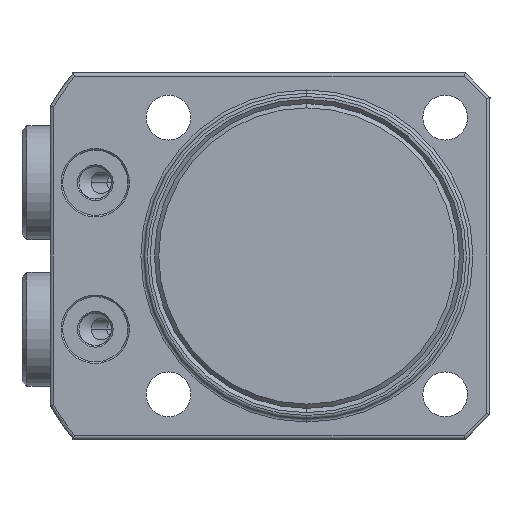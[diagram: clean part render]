
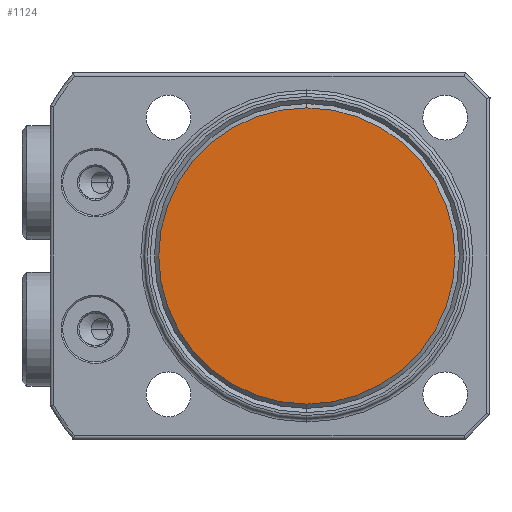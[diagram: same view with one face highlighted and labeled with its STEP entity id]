
A CAD part, front view. The second image highlights one B-rep face of the part: STEP entity #1124.
In plain terms, the highlighted planar face has unit normal (0, -1, 0) as drawn and (1, 0, 0) by its records, which use the part's own axes.
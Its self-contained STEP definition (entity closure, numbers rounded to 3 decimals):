
#866=PLANE('',#4428);
#1124=ADVANCED_FACE('',(#1379),#866,.T.);
#1379=FACE_OUTER_BOUND('',#1583,.T.);
#1583=EDGE_LOOP('',(#2599,#2600));
#2599=ORIENTED_EDGE('',*,*,#3652,.F.);
#2600=ORIENTED_EDGE('',*,*,#3771,.F.);
#3265=VERTEX_POINT('',#6252);
#3266=VERTEX_POINT('',#6253);
#3652=EDGE_CURVE('',#3265,#3266,#4057,.T.);
#3771=EDGE_CURVE('',#3266,#3265,#4103,.T.);
#4057=CIRCLE('',#4353,18.2);
#4103=CIRCLE('',#4427,18.2);
#4353=AXIS2_PLACEMENT_3D('',#6251,#5040,#5041);
#4427=AXIS2_PLACEMENT_3D('',#6697,#5240,#5241);
#4428=AXIS2_PLACEMENT_3D('',#6698,#5242,#5243);
#5040=DIRECTION('',(-1.,0.,0.));
#5041=DIRECTION('',(0.,0.,1.));
#5240=DIRECTION('',(-1.,0.,0.));
#5241=DIRECTION('',(0.,0.,1.));
#5242=DIRECTION('',(1.,0.,0.));
#5243=DIRECTION('',(0.,0.,1.));
#6251=CARTESIAN_POINT('',(46.5,0.,0.));
#6252=CARTESIAN_POINT('',(46.5,0.,18.2));
#6253=CARTESIAN_POINT('',(46.5,0.,-18.2));
#6697=CARTESIAN_POINT('',(46.5,0.,0.));
#6698=CARTESIAN_POINT('',(46.5,0.,0.));
